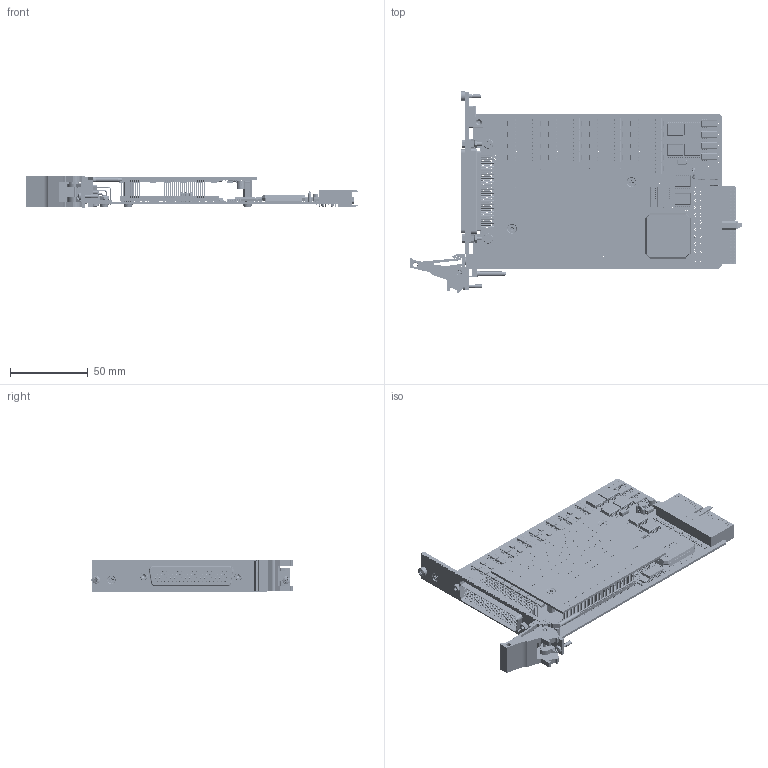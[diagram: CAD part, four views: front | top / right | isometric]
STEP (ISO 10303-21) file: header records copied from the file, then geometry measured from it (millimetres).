
FILE_DESCRIPTION (( 'STEP AP214' ), '1' );
FILE_NAME ('40-412-101 32 CHANNEL DIGITAL I-O HI O-P.STEP', '2013-10-11T09:42:58', ( 'admin' ), ( '' ), 'SwSTEP 2.0', 'SolidWorks 2012', '' );
FILE_SCHEMA (( 'AUTOMOTIVE_DESIGN' ));
Length unit declared in the file: millimetre
Products named in the file (1): 40-412-101 32 CHANNEL DIGITAL I-O HI O-P
Bounding box: 214.01 x 129.67 x 20 mm (x, y, z)
Surface area: 111433.6 mm2 (no closed solid volume)
Topology: 0 solids, 1108 shells, 32087 faces, 90442 edges, 60575 vertices
Faces by surface type: plane 24188, cylinder 6504, bspline 694, cone 440, torus 235, sphere 26
Full cylindrical faces by diameter (mm): 0.2 x2, 0.307 x1, 0.406 x1348, 0.5 x12, 0.6 x188, 0.696 x1, 0.75 x134, 0.77 x156, 0.8 x90, 0.9 x9, 0.965 x2, 1 x12, 1.19 x78, 1.496 x2, 1.6 x1, 1.948 x1, 2 x10, 2.05 x8, 2.16 x2, 2.208 x1, 2.387 x2, 2.495 x1, 2.497 x1, 2.5 x55, 2.595 x1, 2.6 x3, 2.675 x2, 2.7 x3, 2.8 x3, 2.9 x4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
Entity records: 1413655 total; most frequent: CARTESIAN_POINT 234850, ORIENTED_EDGE 164166, DIRECTION 161396, EDGE_CURVE 87366, VECTOR 69224, LINE 69224, VERTEX_POINT 60284, AXIS2_PLACEMENT_3D 46086
